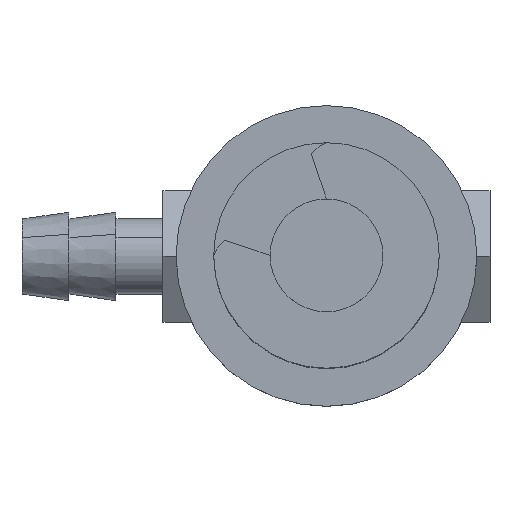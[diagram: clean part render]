
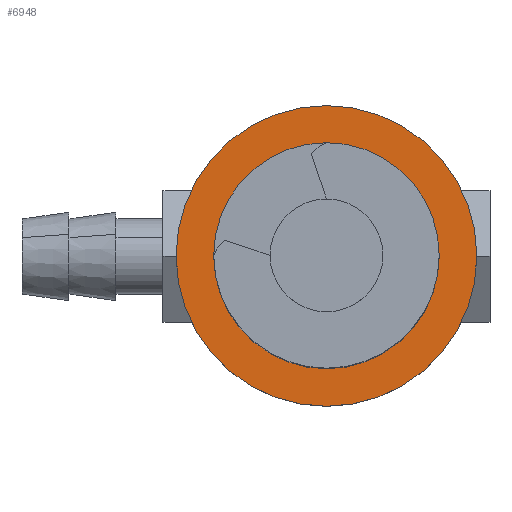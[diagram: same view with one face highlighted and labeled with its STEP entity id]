
A CAD part, top view. The second image highlights one B-rep face of the part: STEP entity #6948.
In plain terms, the highlighted planar face has unit normal (0, 0, 1).
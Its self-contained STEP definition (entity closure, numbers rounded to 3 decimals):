
#103 = CARTESIAN_POINT ( 'NONE',  ( 3.408, -2.369, 6. ) ) ;
#322 = ORIENTED_EDGE ( 'NONE', *, *, #4516, .T. ) ;
#496 = ORIENTED_EDGE ( 'NONE', *, *, #8000, .T. ) ;
#536 = EDGE_CURVE ( 'NONE', #3691, #3435, #711, .T. ) ;
#711 = CIRCLE ( 'NONE', #7191, 6. ) ;
#883 = PLANE ( 'NONE',  #9153 ) ;
#1873 = CARTESIAN_POINT ( 'NONE',  ( -4.688, -10.465, 6. ) ) ;
#2060 = AXIS2_PLACEMENT_3D ( 'NONE', #103, #2900, #5893 ) ;
#2252 = DIRECTION ( 'NONE',  ( -1., 0., 0. ) ) ;
#2357 = CARTESIAN_POINT ( 'NONE',  ( 9.408, -2.369, 6. ) ) ;
#2665 = DIRECTION ( 'NONE',  ( 0., 0., 1. ) ) ;
#2740 = CARTESIAN_POINT ( 'NONE',  ( 3.408, -2.369, 6. ) ) ;
#2900 = DIRECTION ( 'NONE',  ( 0., 0., -1. ) ) ;
#2957 = DIRECTION ( 'NONE',  ( 0., 0., 1. ) ) ;
#3340 = DIRECTION ( 'NONE',  ( 0., 0., 1. ) ) ;
#3435 = VERTEX_POINT ( 'NONE', #2357 ) ;
#3446 = CARTESIAN_POINT ( 'NONE',  ( -2.592, -2.369, 6. ) ) ;
#3467 = CARTESIAN_POINT ( 'NONE',  ( 3.408, -2.369, 6. ) ) ;
#3622 = ORIENTED_EDGE ( 'NONE', *, *, #7326, .T. ) ;
#3691 = VERTEX_POINT ( 'NONE', #3446 ) ;
#4468 = CIRCLE ( 'NONE', #2060, 6. ) ;
#4516 = EDGE_CURVE ( 'NONE', #7404, #5226, #7497, .T. ) ;
#4617 = CARTESIAN_POINT ( 'NONE',  ( 11.408, -2.369, 6. ) ) ;
#4798 = DIRECTION ( 'NONE',  ( 1., 0., 0. ) ) ;
#5226 = VERTEX_POINT ( 'NONE', #4617 ) ;
#5421 = DIRECTION ( 'NONE',  ( 0., 0., -1. ) ) ;
#5801 = CARTESIAN_POINT ( 'NONE',  ( -4.592, -2.369, 6. ) ) ;
#5893 = DIRECTION ( 'NONE',  ( -1., 0., 0. ) ) ;
#6021 = FACE_BOUND ( 'NONE', #8294, .T. ) ;
#6289 = AXIS2_PLACEMENT_3D ( 'NONE', #6717, #2957, #2252 ) ;
#6717 = CARTESIAN_POINT ( 'NONE',  ( 3.408, -2.369, 6. ) ) ;
#6916 = DIRECTION ( 'NONE',  ( -1., 0., 0. ) ) ;
#6948 = ADVANCED_FACE ( 'NONE', ( #6021, #8177 ), #883, .T. ) ;
#7191 = AXIS2_PLACEMENT_3D ( 'NONE', #2740, #5421, #8320 ) ;
#7326 = EDGE_CURVE ( 'NONE', #3435, #3691, #4468, .T. ) ;
#7404 = VERTEX_POINT ( 'NONE', #5801 ) ;
#7497 = CIRCLE ( 'NONE', #7933, 8. ) ;
#7501 = CIRCLE ( 'NONE', #6289, 8. ) ;
#7933 = AXIS2_PLACEMENT_3D ( 'NONE', #3467, #2665, #6916 ) ;
#8000 = EDGE_CURVE ( 'NONE', #5226, #7404, #7501, .T. ) ;
#8177 = FACE_OUTER_BOUND ( 'NONE', #8684, .T. ) ;
#8294 = EDGE_LOOP ( 'NONE', ( #9214, #3622 ) ) ;
#8320 = DIRECTION ( 'NONE',  ( -1., 0., 0. ) ) ;
#8684 = EDGE_LOOP ( 'NONE', ( #322, #496 ) ) ;
#9153 = AXIS2_PLACEMENT_3D ( 'NONE', #1873, #3340, #4798 ) ;
#9214 = ORIENTED_EDGE ( 'NONE', *, *, #536, .T. ) ;
